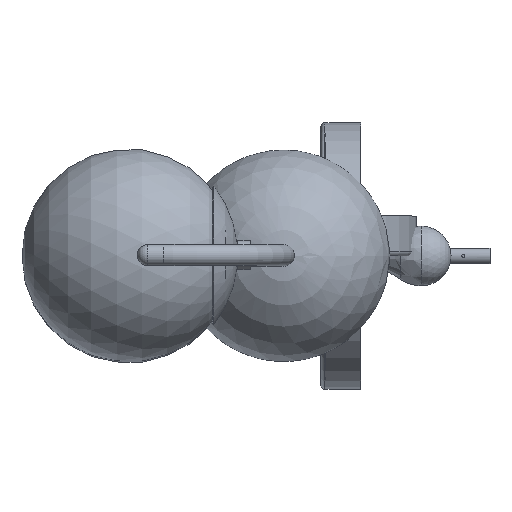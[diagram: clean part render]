
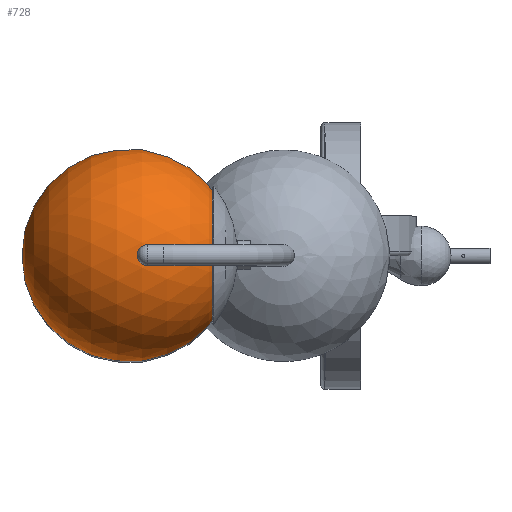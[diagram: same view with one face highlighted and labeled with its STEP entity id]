
A CAD part, top view. The second image highlights one B-rep face of the part: STEP entity #728.
In plain terms, the highlighted spherical face has radius 80 mm.
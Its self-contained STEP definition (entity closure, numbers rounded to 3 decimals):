
#728 = ADVANCED_FACE( '', ( #1151 ), #1152, .T. );
#1151 = FACE_OUTER_BOUND( '', #2506, .T. );
#1152 = SPHERICAL_SURFACE( '', #2507, 80. );
#2506 = EDGE_LOOP( '', ( #3165 ) );
#2507 = AXIS2_PLACEMENT_3D( '', #3166, #3167, #3168 );
#3165 = ORIENTED_EDGE( '', *, *, #4078, .T. );
#3166 = CARTESIAN_POINT( '', ( 0., 0., 75. ) );
#3167 = DIRECTION( '', ( 0., 0., -1. ) );
#3168 = DIRECTION( '', ( 1., 0., 0. ) );
#4078 = EDGE_CURVE( '', #4463, #4463, #4464, .T. );
#4463 = VERTEX_POINT( '', #6933 );
#4464 = CIRCLE( '', #6934, 36.098 );
#6933 = CARTESIAN_POINT( '', ( 36.098, 0., 3.607 ) );
#6934 = AXIS2_PLACEMENT_3D( '', #7561, #7562, #7563 );
#7561 = CARTESIAN_POINT( '', ( 0., 0., 3.607 ) );
#7562 = DIRECTION( '', ( 0., 0., 1. ) );
#7563 = DIRECTION( '', ( 1., 0., 0. ) );
